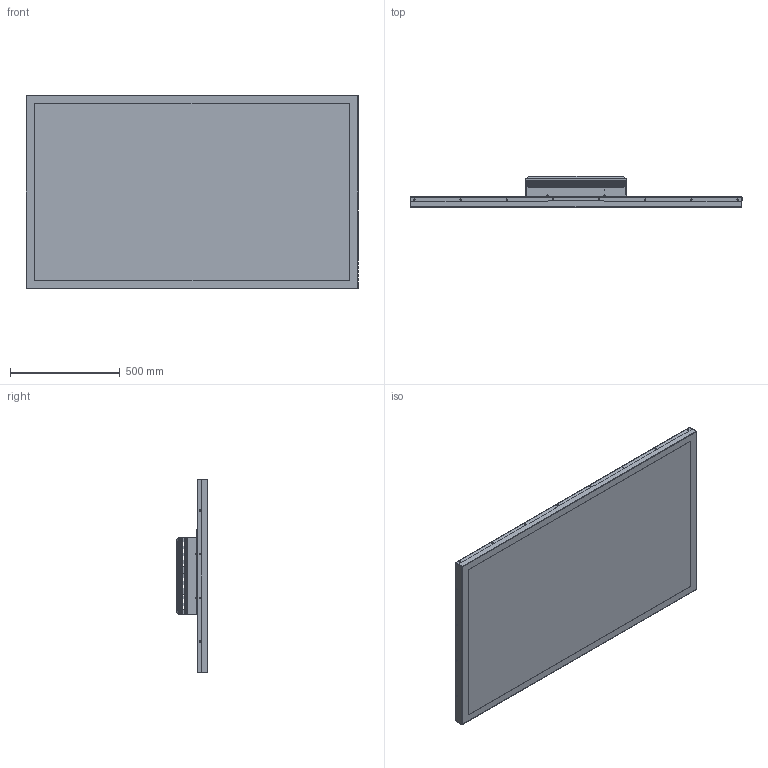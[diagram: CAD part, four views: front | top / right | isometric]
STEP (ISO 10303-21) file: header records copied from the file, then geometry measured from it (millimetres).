
FILE_DESCRIPTION(/* description */ (''),/* implementation_level */ '2;1');
FILE_NAME(/* name */ 'G:\Mechanik\TFT\HD2Line\PDP 65W\HD2LINE\costumers view\PDP 65W.stp',/* time_stamp */ '2016-02-25T12:37:10+01:00',/* author */ ('bh'),/* organization */ (''),/* preprocessor_version */ 'ST-DEVELOPER v15.6',/* originating_system */ 'Autodesk Inventor 2015',/* authorisation */ '');
FILE_SCHEMA (('AUTOMOTIVE_DESIGN { 1 0 10303 214 3 1 1 }'));
Products named in the file (65): M-ET-026-A_0; Frontrahmen kpl._Baugruppe; M-ET-027-A_0; T-M-ET-027_Rückwand 65_ Pro; P2-42_Southco Griffmulde; P2-42_Southco Griffmulde_1; Southco Griffmulde; Einbauten Kund_Baugruppe; Rückwand kpl._Baugruppe; SO-M3-6_KVT PEM Einpressgewindebuchse M3; SO-M3-6_KVT PEM Einpressgewindebuchse M3_1; SO-M3-6_KVT PEM Einpressgewindebuchse M3_2; SO-M3-6_KVT PEM Einpressgewindebuchse M3_3; SO-M3-6_KVT PEM Einpressgewindebuchse M3_4; SO-M3-6_KVT PEM Einpressgewindebuchse M3_5; SO-M3-6_KVT PEM Einpressgewindebuchse M3_6; KVT PEM Einpressgewindebuchse M3; FH-M4-12_KVT PEM Einpressgewindebolzen M4x12_1; FH-M4-12_KVT PEM Einpressgewindebolzen M4x12_2; FH-M4-12_KVT PEM Einpressgewindebolzen M4x12_3; KVT PEM Einpressgewindebolzen M4x12; 725000030110_Kerb Konus Einnietmutter M3_16; 725000030110_Kerb Konus Einnietmutter M3_17; 725000030110_Kerb Konus Einnietmutter M3_18; 725000030110_Kerb Konus Einnietmutter M3_19; 725000030110_Kerb Konus Einnietmutter M3_20; 725000030110_Kerb Konus Einnietmutter M3_21; 725000030110_Kerb Konus Einnietmutter M3_22; 725000030110_Kerb Konus Einnietmutter M3_23; 725000030110_Kerb Konus Einnietmutter M3_24; 725000030110_Kerb Konus Einnietmutter M3_25; 725000030110_Kerb Konus Einnietmutter M3_26; 725000030110_Kerb Konus Einnietmutter M3_27; Kerb Konus Einnietmutter M3_1; 725000040110_Kerb Konus Einnietmutter M4; 550-030-01_0; 550-030-01_Aufnahme Halter RPC-Schiene; Kartenträgeraufsatz kpl._Baugruppe; 600-052-00_Frontblende Netzteil; Netzteileinschub kpl._Baugruppe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
Assembly tree (64 placements, depth 6):
  PDP 65W
    Frontrahmen kpl._Baugruppe
      M-ET-026-A_0
    Rückwand kpl._Baugruppe
      T-M-ET-027_Rückwand 65_ Pro
        M-ET-027-A_0
      Einbauten Kund_Baugruppe
        Southco Griffmulde
          P2-42_Southco Griffmulde
          P2-42_Southco Griffmulde_1
    Kartenträgeraufsatz kpl._Baugruppe_1
      Kartenträgeraufsatz kpl._Baugruppe
        550-030-01_Aufnahme Halter RPC-Schiene
          KVT PEM Einpressgewindebuchse M3
            SO-M3-6_KVT PEM Einpressgewindebuchse M3
            SO-M3-6_KVT PEM Einpressgewindebuchse M3_1
            SO-M3-6_KVT PEM Einpressgewindebuchse M3_2
            SO-M3-6_KVT PEM Einpressgewindebuchse M3_3
            SO-M3-6_KVT PEM Einpressgewindebuchse M3_4
            SO-M3-6_KVT PEM Einpressgewindebuchse M3_5
            SO-M3-6_KVT PEM Einpressgewindebuchse M3_6
          KVT PEM Einpressgewindebolzen M4x12
            FH-M4-12_KVT PEM Einpressgewindebolzen M4x12_1
            FH-M4-12_KVT PEM Einpressgewindebolzen M4x12_2
            FH-M4-12_KVT PEM Einpressgewindebolzen M4x12_3
          Kerb Konus Einnietmutter M3_1
            725000030110_Kerb Konus Einnietmutter M3_16
            725000030110_Kerb Konus Einnietmutter M3_17
            725000030110_Kerb Konus Einnietmutter M3_18
            725000030110_Kerb Konus Einnietmutter M3_19
            725000030110_Kerb Konus Einnietmutter M3_20
            725000030110_Kerb Konus Einnietmutter M3_21
            725000030110_Kerb Konus Einnietmutter M3_22
            725000030110_Kerb Konus Einnietmutter M3_23
            725000030110_Kerb Konus Einnietmutter M3_24
            725000030110_Kerb Konus Einnietmutter M3_25
            725000030110_Kerb Konus Einnietmutter M3_26
            725000030110_Kerb Konus Einnietmutter M3_27
          725000040110_Kerb Konus Einnietmutter M4
          550-030-01_0
      Netzteileinschub kpl._Baugruppe
        600-052-00_Frontblende Netzteil
          600-052-00_Frontblende Netzteil
    VESA Anschraubung kpl._Baugruppe
      VESA Anschraubplatte kpl._Baugruppe
        550-000-12_VESA Anschraubplatte
          KVT Blindnietmutter M6
            HUC_FEKSG 3,5_KVT Blindnietmutter M6
            HUC_FEKSG 3,5_KVT Blindnietmutter M6_1
            HUC_FEKSG 3,5_KVT Blindnietmutter M6_2
            HUC_FEKSG 3,5_KVT Blindnietmutter M6_3
            HUC_FEKSG 3,5_KVT Blindnietmutter M6_4
            HUC_FEKSG 3,5_KVT Blindnietmutter M6_5
            HUC_FEKSG 3,5_KVT Blindnietmutter M6_6
            HUC_FEKSG 3,5_KVT Blindnietmutter M6_7
            HUC_FEKSG 3,5_KVT Blindnietmutter M6_8
            HUC_FEKSG 3,5_KVT Blindnietmutter M6_9
            HUC_FEKSG 3,5_KVT Blindnietmutter M6_10
            HUC_FEKSG 3,5_KVT Blindnietmutter M6_11
            HUC_FEKSG 3,5_KVT Blindnietmutter M6_12
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Bounding box: 1514 x 143.5 x 884 mm (x, y, z)
Volume: 4818709.2 mm3; surface area: 7075726.4 mm2
Topology: 46 solids, 46 shells, 4511 faces, 12891 edges, 8538 vertices
Faces by surface type: plane 2286, cylinder 2063, cone 127, bspline 32, torus 3
Full cylindrical faces by diameter (mm): 3 x19, 3.1 x5, 3.5 x8, 4 x7, 4.1 x5, 4.18 x7, 4.2 x15, 4.25 x78, 4.3 x55, 4.7 x2, 4.8 x2, 5.5 x13, 5.55 x1, 6 x16, 6.1 x55, 7 x4, 8.5 x14, 9 x14, 10 x23, 13 x14
Entity records: 151685 total; most frequent: CARTESIAN_POINT 27635, DIRECTION 25562, ORIENTED_EDGE 24464, EDGE_CURVE 12232, AXIS2_PLACEMENT_3D 8765, VERTEX_POINT 8366, LINE 8032, VECTOR 8032
